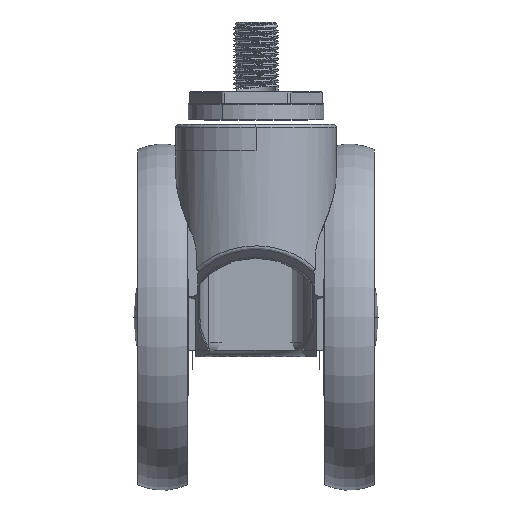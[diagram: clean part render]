
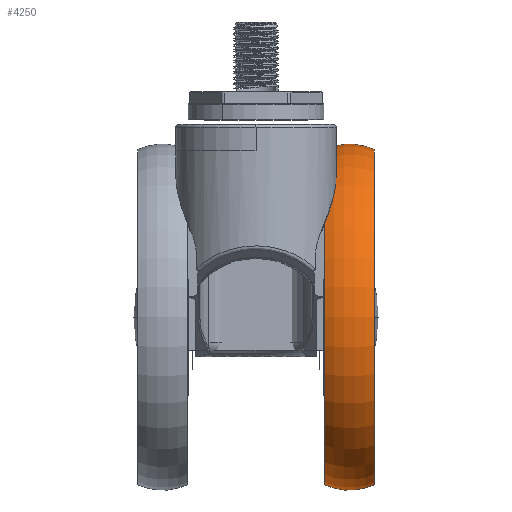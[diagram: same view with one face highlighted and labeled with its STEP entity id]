
A CAD part, top view. The second image highlights one B-rep face of the part: STEP entity #4250.
In plain terms, the highlighted toroidal (fillet/blend) face has major radius 41.25 mm and minor radius 21.25 mm.
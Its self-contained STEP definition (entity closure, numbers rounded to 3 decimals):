
#4131=CARTESIAN_POINT('',(24.75,0.,0.));
#4132=DIRECTION('',(-1.,0.,0.));
#4133=DIRECTION('',(0.,-1.,0.));
#4134=AXIS2_PLACEMENT_3D('',#4131,#4132,#4133);
#4136=CARTESIAN_POINT('',(33.75,-41.25,0.));
#4137=DIRECTION('',(0.,0.,1.));
#4138=DIRECTION('',(-0.424,-0.906,0.));
#4139=AXIS2_PLACEMENT_3D('',#4136,#4137,#4138);
#4141=CARTESIAN_POINT('',(33.75,41.25,0.));
#4142=DIRECTION('',(0.,0.,-1.));
#4143=DIRECTION('',(-0.424,0.906,0.));
#4144=AXIS2_PLACEMENT_3D('',#4141,#4142,#4143);
#4156=CARTESIAN_POINT('',(42.75,0.,0.));
#4157=DIRECTION('',(-1.,0.,0.));
#4158=DIRECTION('',(0.,-1.,0.));
#4159=AXIS2_PLACEMENT_3D('',#4156,#4157,#4158);
#4191=CARTESIAN_POINT('',(24.75,-60.5,0.));
#4192=CARTESIAN_POINT('',(42.75,-60.5,0.));
#4193=VERTEX_POINT('',#4191);
#4194=VERTEX_POINT('',#4192);
#4195=CARTESIAN_POINT('',(24.75,60.5,0.));
#4196=CARTESIAN_POINT('',(42.75,60.5,0.));
#4197=VERTEX_POINT('',#4195);
#4198=VERTEX_POINT('',#4196);
#4236=CARTESIAN_POINT('',(33.75,0.,0.));
#4237=DIRECTION('',(-1.,0.,0.));
#4238=DIRECTION('',(0.,1.,0.));
#4239=AXIS2_PLACEMENT_3D('',#4236,#4237,#4238);
#4240=TOROIDAL_SURFACE('',#4239,41.25,21.25);
#4242=ORIENTED_EDGE('',*,*,#4241,.F.);
#4243=ORIENTED_EDGE('',*,*,#4216,.T.);
#4245=ORIENTED_EDGE('',*,*,#4244,.T.);
#4247=ORIENTED_EDGE('',*,*,#4246,.F.);
#4248=EDGE_LOOP('',(#4242,#4243,#4245,#4247));
#4249=FACE_OUTER_BOUND('',#4248,.F.);
#4135=CIRCLE('',#4134,60.5);
#4140=CIRCLE('',#4139,21.25);
#4145=CIRCLE('',#4144,21.25);
#4160=CIRCLE('',#4159,60.5);
#4216=EDGE_CURVE('',#4193,#4197,#4135,.T.);
#4241=EDGE_CURVE('',#4193,#4194,#4140,.T.);
#4244=EDGE_CURVE('',#4197,#4198,#4145,.T.);
#4246=EDGE_CURVE('',#4194,#4198,#4160,.T.);
#4250=ADVANCED_FACE('',(#4249),#4240,.T.);
